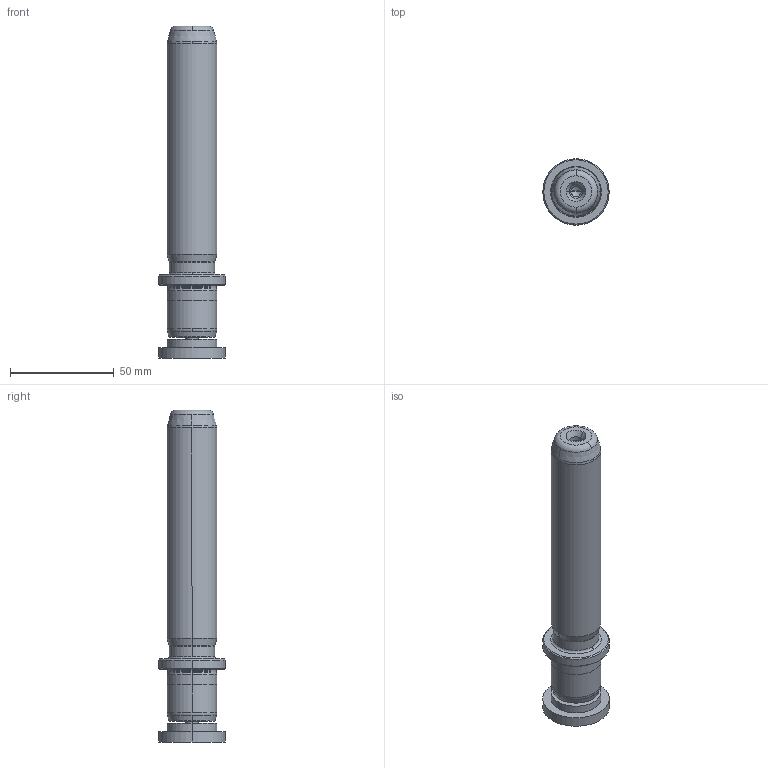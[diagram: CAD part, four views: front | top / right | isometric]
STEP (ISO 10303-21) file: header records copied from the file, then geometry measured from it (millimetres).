
FILE_DESCRIPTION((''),'2;1');
FILE_NAME('P22_024_125.stp','2009-02-02T15:29:58',(''),(''),'Mechanical Desktop 2009','Mechanical Desktop 2009',', , ');
FILE_SCHEMA(('CONFIG_CONTROL_DESIGN'));
Length unit declared in the file: millimetre
Products named in the file (2): Product; blmdl1
Assembly tree (1 placements, depth 2):
  Product
    blmdl1
Bounding box: 32 x 32 x 160 mm (x, y, z)
Volume: 73006.8 mm3; surface area: 16645.8 mm2
Topology: 3 solids, 3 shells, 99 faces, 237 edges, 149 vertices
Faces by surface type: cylinder 32, cone 28, plane 19, torus 10, bspline 10
Entity records: 3419 total; most frequent: CARTESIAN_POINT 923, DIRECTION 570, ORIENTED_EDGE 466, AXIS2_PLACEMENT_3D 246, EDGE_CURVE 233, CIRCLE 155, VERTEX_POINT 149, EDGE_LOOP 110
